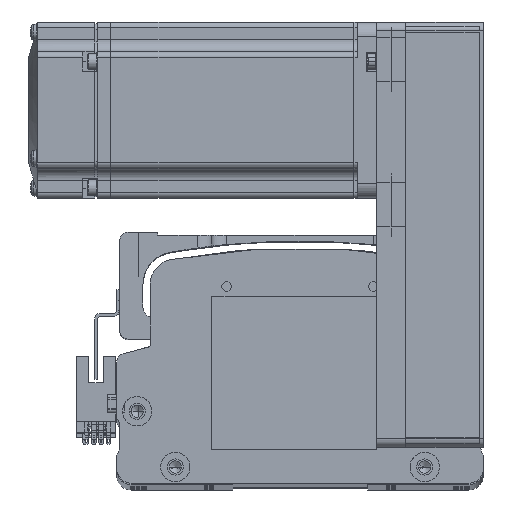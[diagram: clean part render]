
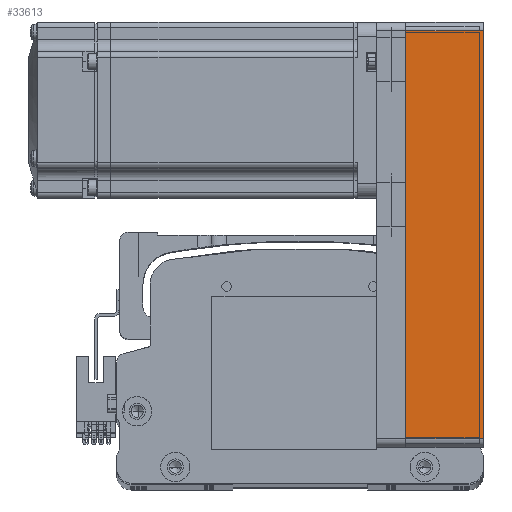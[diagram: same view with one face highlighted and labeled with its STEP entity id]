
A CAD part, top view. The second image highlights one B-rep face of the part: STEP entity #33613.
In plain terms, the highlighted planar face has unit normal (0, 0, 1) as drawn and (0, 1, 0) by its records, which use the part's own axes.
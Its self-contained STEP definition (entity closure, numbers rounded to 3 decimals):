
#325 = CARTESIAN_POINT ( 'NONE',  ( -69.5, 30., 26.5 ) ) ;
#1844 = CARTESIAN_POINT ( 'NONE',  ( 72.5, 30., 26.5 ) ) ;
#3310 = CARTESIAN_POINT ( 'NONE',  ( 72.5, 30., 0. ) ) ;
#6837 = DIRECTION ( 'NONE',  ( 0., 0., 1. ) ) ;
#6901 = LINE ( 'NONE', #23396, #22163 ) ;
#8122 = PLANE ( 'NONE',  #14852 ) ;
#8393 = DIRECTION ( 'NONE',  ( 1., 0., 0. ) ) ;
#12175 = ORIENTED_EDGE ( 'NONE', *, *, #36404, .T. ) ;
#14852 = AXIS2_PLACEMENT_3D ( 'NONE', #1844, #47438, #8393 ) ;
#17309 = ORIENTED_EDGE ( 'NONE', *, *, #36901, .T. ) ;
#22163 = VECTOR ( 'NONE', #62398, 1000. ) ;
#22647 = EDGE_LOOP ( 'NONE', ( #76476, #12175, #50121, #17309 ) ) ;
#23396 = CARTESIAN_POINT ( 'NONE',  ( 69.5, 30., 26.5 ) ) ;
#24995 = DIRECTION ( 'NONE',  ( -1., 0., 0. ) ) ;
#26303 = EDGE_CURVE ( 'NONE', #31405, #46186, #54619, .T. ) ;
#31405 = VERTEX_POINT ( 'NONE', #65058 ) ;
#33613 = ADVANCED_FACE ( 'NONE', ( #80991 ), #8122, .F. ) ;
#36404 = EDGE_CURVE ( 'NONE', #46186, #63844, #78242, .T. ) ;
#36901 = EDGE_CURVE ( 'NONE', #70233, #31405, #6901, .T. ) ;
#40024 = VECTOR ( 'NONE', #24995, 1000. ) ;
#41041 = EDGE_CURVE ( 'NONE', #70233, #63844, #74626, .T. ) ;
#42404 = DIRECTION ( 'NONE',  ( -1., 0., 0. ) ) ;
#43642 = VECTOR ( 'NONE', #6837, 1000. ) ;
#46186 = VERTEX_POINT ( 'NONE', #57984 ) ;
#47438 = DIRECTION ( 'NONE',  ( 0., -1., 0. ) ) ;
#50121 = ORIENTED_EDGE ( 'NONE', *, *, #41041, .F. ) ;
#53868 = CARTESIAN_POINT ( 'NONE',  ( 69.5, 30., 26.5 ) ) ;
#54619 = LINE ( 'NONE', #3310, #56677 ) ;
#56677 = VECTOR ( 'NONE', #42404, 1000. ) ;
#57984 = CARTESIAN_POINT ( 'NONE',  ( -69.5, 30., 0. ) ) ;
#62398 = DIRECTION ( 'NONE',  ( 0., 0., -1. ) ) ;
#63678 = CARTESIAN_POINT ( 'NONE',  ( 72.5, 30., 26.5 ) ) ;
#63844 = VERTEX_POINT ( 'NONE', #76580 ) ;
#65058 = CARTESIAN_POINT ( 'NONE',  ( 69.5, 30., 0. ) ) ;
#70233 = VERTEX_POINT ( 'NONE', #53868 ) ;
#74626 = LINE ( 'NONE', #63678, #40024 ) ;
#76476 = ORIENTED_EDGE ( 'NONE', *, *, #26303, .T. ) ;
#76580 = CARTESIAN_POINT ( 'NONE',  ( -69.5, 30., 26.5 ) ) ;
#78242 = LINE ( 'NONE', #325, #43642 ) ;
#80991 = FACE_OUTER_BOUND ( 'NONE', #22647, .T. ) ;
